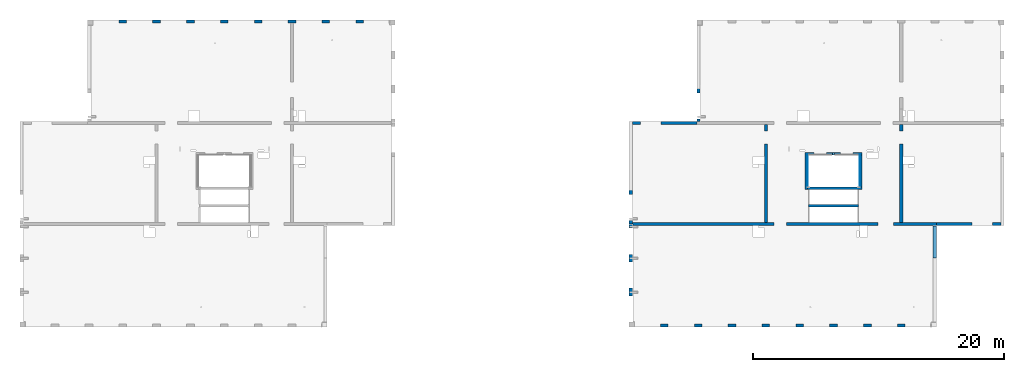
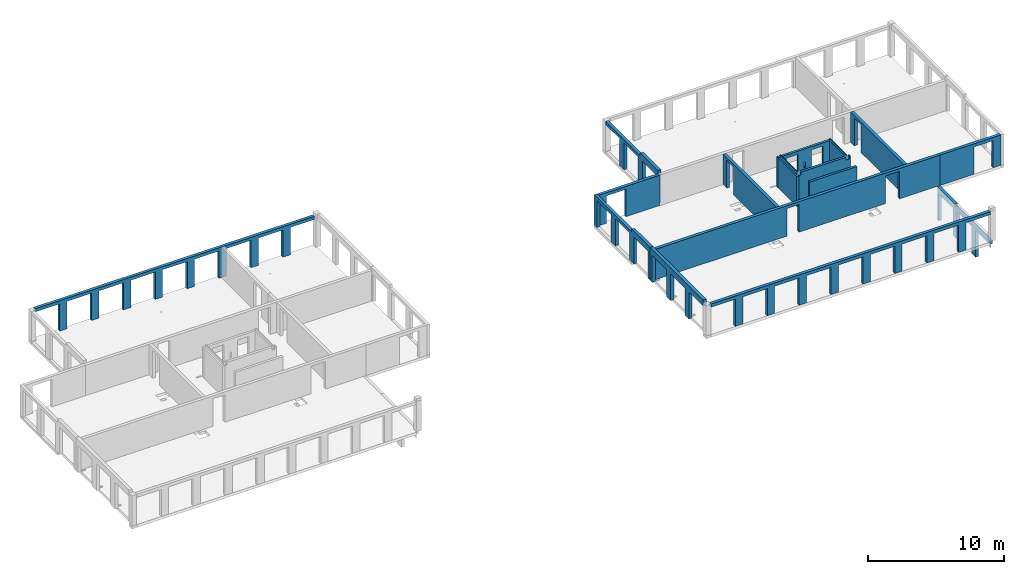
# One storey, part 5 of 12: 18 walls, 45 openings.
"""IFC2X3 building model written with IfcOpenShell, lengths in millimetres."""

import ifcopenshell
import ifcopenshell.guid

model = None  # the IFC model being written
_history = None  # IfcOwnerHistory: only IFC2X3 demands one
_inside = {}  # id of a spatial element -> (the spatial element, [elements in it])
_under = {}  # id of a project, library or spatial element -> (it, [spatial elements below it])
_declared = {}  # id of a project -> (the project, [libraries it declares])
_typed = {}  # id of a type object -> (the type object, [elements of that type])
_made_of = {}  # id of a material, layer set ... -> (it, [elements and type objects made of it])


def new_model(schema):
    """Start an empty IFC model of exactly this schema.

    Asked for "IFC4X3", IfcOpenShell would pick the latest addendum, in which some entities
    have other attributes; the version numbers below select the first issue.
    IFC2X3 requires an IfcOwnerHistory on every rooted entity: one is made here for all.
    """
    global model, _history
    if schema == "IFC4X3":
        model = ifcopenshell.file(schema_version=(4, 3, 0, 0))
    else:
        model = ifcopenshell.file(schema=schema)
    _inside.clear()
    _under.clear()
    _declared.clear()
    _typed.clear()
    _made_of.clear()
    _history = None
    if model.schema == "IFC2X3":
        org = make("IfcOrganization", Name="unknown")
        user = make(
            "IfcPersonAndOrganization",
            ThePerson=make("IfcPerson", FamilyName="unknown"),
            TheOrganization=org,
        )
        app = make(
            "IfcApplication",
            ApplicationDeveloper=org,
            Version="unknown",
            ApplicationFullName="unknown",
            ApplicationIdentifier="unknown",
        )
        _history = make(
            "IfcOwnerHistory",
            OwningUser=user,
            OwningApplication=app,
            ChangeAction="ADDED",
            CreationDate=0,
        )
    return model


def make(cls, **values):
    """One entity of the class cls with the attributes given. An attribute that is None is left unset."""
    return model.create_entity(
        cls, **{name: value for name, value in values.items() if value is not None}
    )


def entity(cls, *values):
    """Any entity or typed value of the class cls, its attributes in the order of the schema. None: left unset."""
    e = model.create_entity(cls)
    for i, value in enumerate(values):
        if value is not None:
            e[i] = value
    return e


def rooted(cls, **values):
    """An entity with a GlobalId (a new one), such as an element, a storey or a relation."""
    return make(cls, GlobalId=ifcopenshell.guid.new(), OwnerHistory=_history, **values)


def si_unit(unit_type, name, prefix=None):
    """IfcSIUnit, for example si_unit("LENGTHUNIT", "METRE", prefix="MILLI")."""
    return make("IfcSIUnit", UnitType=unit_type, Prefix=prefix, Name=name)


def converted_unit(unit_type, name, factor, base, dimensions=None, offset=None):
    """IfcConversionBasedUnit, such as the inch: factor (a typed value) times the base unit."""
    return make(
        "IfcConversionBasedUnit"
        if offset is None
        else "IfcConversionBasedUnitWithOffset",
        ConversionOffset=offset,
        Dimensions=None
        if dimensions is None
        else entity("IfcDimensionalExponents", *dimensions),
        UnitType=unit_type,
        Name=name,
        ConversionFactor=make(
            "IfcMeasureWithUnit", ValueComponent=factor, UnitComponent=base
        ),
    )


def derived_unit(unit_type, elements):
    """IfcDerivedUnit: a product of units, each with its exponent."""
    return make(
        "IfcDerivedUnit",
        Elements=[
            make("IfcDerivedUnitElement", Unit=unit, Exponent=power)
            for unit, power in elements
        ],
        UnitType=unit_type,
    )


def assignment(units):
    """IfcUnitAssignment: the units of a project."""
    return None if units is None else make("IfcUnitAssignment", Units=units)


def point(xyz):
    """IfcCartesianPoint."""
    return None if xyz is None else make("IfcCartesianPoint", Coordinates=xyz)


def direction(xyz):
    """IfcDirection."""
    return None if xyz is None else make("IfcDirection", DirectionRatios=xyz)


def frame(location, z_axis=None, x_axis=None):
    """IfcAxis2Placement3D, a coordinate frame: its origin and axes. An axis left out is left unset."""
    return make(
        "IfcAxis2Placement3D",
        Location=point(location),
        Axis=direction(z_axis),
        RefDirection=direction(x_axis),
    )


def frame_2d(location, x_axis=None):
    """IfcAxis2Placement2D, a coordinate frame in the plane: its origin and x axis."""
    return make(
        "IfcAxis2Placement2D", Location=point(location), RefDirection=direction(x_axis)
    )


def origin():
    """The frame at (0, 0, 0) with its axes left unset."""
    return frame((0.0, 0.0, 0.0))


def origin_2d_with_axis():
    """The frame at (0, 0) in the plane with the x axis (1, 0) written out."""
    return frame_2d((0.0, 0.0), x_axis=(1.0, 0.0))


def place(relative_to, where):
    """IfcLocalPlacement: puts the frame where relative to a parent placement (None: the world)."""
    return make(
        "IfcLocalPlacement", PlacementRelTo=relative_to, RelativePlacement=where
    )


def context(
    kind, dimensions, precision=None, world=None, true_north=None, identifier=None
):
    """IfcGeometricRepresentationContext, for example the 3D "Model" context."""
    return make(
        "IfcGeometricRepresentationContext",
        ContextIdentifier=identifier,
        ContextType=kind,
        CoordinateSpaceDimension=dimensions,
        Precision=precision,
        WorldCoordinateSystem=world,
        TrueNorth=true_north,
    )


def subcontext(parent, identifier, kind, view, scale=None):
    """IfcGeometricRepresentationSubContext, for example "Body" below "Model"."""
    return make(
        "IfcGeometricRepresentationSubContext",
        ContextIdentifier=identifier,
        ContextType=kind,
        ParentContext=parent,
        TargetScale=scale,
        TargetView=view,
    )


def project(units=None, contexts=None):
    """IfcProject with its units and contexts."""
    return rooted(
        "IfcProject",
        Name="project",
        RepresentationContexts=contexts,
        UnitsInContext=assignment(units),
    )


def spatial(cls, under=None, at=None, **own):
    """A site, building, storey or space (cls), placed at a placement, below another one or the project."""
    s = rooted(cls, ObjectPlacement=at, **own)
    if under is not None:
        _under.setdefault(under.id(), (under, []))[1].append(s)
    return s


def profile(cls, at=None, kind="AREA", **sizes):
    """A parametric profile (cls). Its sizes go by their IFC names, for example OverallWidth=200.0."""
    return make(cls, ProfileType=kind, Position=at, **sizes)


def rectangle(**sizes):
    """IfcRectangleProfileDef."""
    return profile("IfcRectangleProfileDef", **sizes)


def extrude(swept, where, along, depth):
    """IfcExtrudedAreaSolid: the profile swept, set in the frame where, extruded along a direction by depth."""
    return make(
        "IfcExtrudedAreaSolid",
        SweptArea=swept,
        Position=where,
        ExtrudedDirection=direction(along),
        Depth=depth,
    )


def shape(context_of_items, identifier, shape_type, items):
    """IfcShapeRepresentation: the items that make up one representation, for example the "Body"."""
    return make(
        "IfcShapeRepresentation",
        ContextOfItems=context_of_items,
        RepresentationIdentifier=identifier,
        RepresentationType=shape_type,
        Items=items,
    )


def material(Name=None, Category=None):
    """IfcMaterial."""
    return make("IfcMaterial", Name=Name, Category=Category)


def layer(
    of_material, thickness, ventilated=None, Name=None, Category=None, Priority=None
):
    """IfcMaterialLayer: one layer of a wall or slab, of a material (None: an air gap)."""
    return make(
        "IfcMaterialLayer",
        Material=of_material,
        LayerThickness=thickness,
        IsVentilated=ventilated,
        Name=Name,
        Category=Category,
        Priority=Priority,
    )


def layer_set(layers, Name=None):
    """IfcMaterialLayerSet."""
    return make("IfcMaterialLayerSet", MaterialLayers=layers, LayerSetName=Name)


def layer_usage(for_layer_set, set_direction, sense, offset, extent=None):
    """IfcMaterialLayerSetUsage: how a layer set lies in its element."""
    return make(
        "IfcMaterialLayerSetUsage",
        ForLayerSet=for_layer_set,
        LayerSetDirection=set_direction,
        DirectionSense=sense,
        OffsetFromReferenceLine=offset,
        ReferenceExtent=extent,
    )


def made_of(thing, what):
    """Note that an element or type object is made of a material, layer set ...; save() writes the relation."""
    if what is not None:
        _made_of.setdefault(what.id(), (what, []))[1].append(thing)
    return thing


def type_object(cls, material=None, **own):
    """A type object (cls), such as IfcWallType, which elements share."""
    return made_of(rooted(cls, **own), material)


def element(
    cls,
    number,
    at=None,
    inside=None,
    cuts=None,
    type_object=None,
    material=None,
    context=None,
    identifier="Body",
    shape_type=None,
    held_by="IfcProductDefinitionShape",
    body=None,
    shapes=None,
    **own,
):
    """One element of the class cls, such as IfcWall. Its Tag is "e" and its number.

    at: its placement. inside: the storey or other place that contains it. cuts: it is an
    opening in that element (IfcRelVoidsElement). A single representation is given by context,
    identifier, shape_type and body (its items); several are given by shapes. held_by: the class
    of the entity that holds the representations. save() writes the other relations.
    """
    e = rooted(cls, Tag="e%d" % number, ObjectPlacement=at, **own)
    if body is not None:
        shapes = [shape(context, identifier, shape_type, body)]
    if shapes is not None:
        e.Representation = make(held_by, Representations=shapes)
    if inside is not None:
        _inside.setdefault(inside.id(), (inside, []))[1].append(e)
    if cuts is not None:
        rooted(
            "IfcRelVoidsElement", RelatingBuildingElement=cuts, RelatedOpeningElement=e
        )
    if type_object is not None:
        _typed.setdefault(type_object.id(), (type_object, []))[1].append(e)
    return made_of(e, material)


def aggregate(whole, parts):
    """IfcRelAggregates: a whole, such as a stair, and the parts it consists of."""
    return rooted("IfcRelAggregates", RelatingObject=whole, RelatedObjects=parts)


def save(model, path):
    """Write the relations noted so far, then the file.

    IfcRelAggregates (storeys below a building ...), IfcRelContainedInSpatialStructure (elements
    in a storey), IfcRelDefinesByType, IfcRelAssociatesMaterial and IfcRelDeclares: one each for
    every whole, place, type object, material and project.
    """
    for whole, parts in _under.values():
        aggregate(whole, parts)
    for where, things in _inside.values():
        rooted(
            "IfcRelContainedInSpatialStructure",
            RelatedElements=things,
            RelatingStructure=where,
        )
    for kind, things in _typed.values():
        rooted("IfcRelDefinesByType", RelatedObjects=things, RelatingType=kind)
    for what, things in _made_of.values():
        rooted("IfcRelAssociatesMaterial", RelatedObjects=things, RelatingMaterial=what)
    for by, libraries in _declared.values():
        rooted("IfcRelDeclares", RelatingContext=by, RelatedDefinitions=libraries)
    model.write(path)


model = new_model("IFC2X3")

# Units and contexts
model_context = context("Model", 3, precision=0.01, world=origin(), true_north=direction((6.12303176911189e-17, 1.0)))
body_context = subcontext(model_context, "Body", "Model", "MODEL_VIEW")
ifc_project = project(units=[si_unit("LENGTHUNIT", "METRE", prefix="MILLI"), si_unit("AREAUNIT", "SQUARE_METRE"), si_unit("VOLUMEUNIT", "CUBIC_METRE"), converted_unit("PLANEANGLEUNIT", "DEGREE", entity("IfcRatioMeasure", 0.0174532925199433), si_unit("PLANEANGLEUNIT", "RADIAN"), dimensions=[0, 0, 0, 0, 0, 0, 0]), si_unit("MASSUNIT", "GRAM", prefix="KILO"), derived_unit("MASSDENSITYUNIT", [(si_unit("MASSUNIT", "GRAM", prefix="KILO"), 1), (si_unit("LENGTHUNIT", "METRE"), -3)]), si_unit("TIMEUNIT", "SECOND"), si_unit("FREQUENCYUNIT", "HERTZ"), si_unit("THERMODYNAMICTEMPERATUREUNIT", "DEGREE_CELSIUS"), derived_unit("THERMALTRANSMITTANCEUNIT", [(si_unit("MASSUNIT", "GRAM", prefix="KILO"), 1), (si_unit("THERMODYNAMICTEMPERATUREUNIT", "KELVIN"), -1), (si_unit("TIMEUNIT", "SECOND"), -3)]), derived_unit("VOLUMETRICFLOWRATEUNIT", [(si_unit("LENGTHUNIT", "METRE"), 3), (si_unit("TIMEUNIT", "SECOND"), -1)]), si_unit("ELECTRICCURRENTUNIT", "AMPERE"), si_unit("ELECTRICVOLTAGEUNIT", "VOLT"), si_unit("POWERUNIT", "WATT"), si_unit("FORCEUNIT", "NEWTON", prefix="KILO"), si_unit("ILLUMINANCEUNIT", "LUX"), si_unit("LUMINOUSFLUXUNIT", "LUMEN"), si_unit("LUMINOUSINTENSITYUNIT", "CANDELA"), derived_unit("USERDEFINED", [(si_unit("MASSUNIT", "GRAM", prefix="KILO"), -1), (si_unit("LENGTHUNIT", "METRE"), -2), (si_unit("TIMEUNIT", "SECOND"), 3), (si_unit("LUMINOUSFLUXUNIT", "LUMEN"), 1)]), derived_unit("LINEARVELOCITYUNIT", [(si_unit("LENGTHUNIT", "METRE"), 1), (si_unit("TIMEUNIT", "SECOND"), -1)]), si_unit("PRESSUREUNIT", "PASCAL"), derived_unit("USERDEFINED", [(si_unit("LENGTHUNIT", "METRE"), -2), (si_unit("MASSUNIT", "GRAM", prefix="KILO"), 1), (si_unit("TIMEUNIT", "SECOND"), -2)])], contexts=[model_context])

# Site, building, storey
site_placement = place(None, origin())
site = spatial("IfcSite", under=ifc_project, at=site_placement, Name="Default", CompositionType="ELEMENT")
building_placement = place(site_placement, origin())
building = spatial("IfcBuilding", under=site, at=building_placement, Name="niet gebruiken", CompositionType="ELEMENT")
storey_placement = place(building_placement, frame((0.0, 0.0, 27450.0)))
storey = spatial("IfcBuildingStorey", under=building, at=storey_placement, Name="09 negende verdieping", CompositionType="ELEMENT", Elevation=27450.0)

# Wall, openings
ifc_material_1 = material(Name="NLRS_f2_beton ihwg")
ifc_layer_1 = layer(ifc_material_1, 250.0)
ifc_layer_set_1 = layer_set([ifc_layer_1], Name="Basic Wall:NLRS_22.21_WA_beton ihwg d=250_gen")
ifc_layer_usage_1 = layer_usage(ifc_layer_set_1, "AXIS2", "NEGATIVE", 125.0)
wall_type_1 = type_object("IfcWallType", Name="Basic Wall:NLRS_22.21_WA_beton ihwg d=250_gen", PredefinedType="STANDARD", material=ifc_layer_set_1)
wall_1_placement = place(storey_placement, frame((75770.0, 36981.0, -90.0)))
wall_1 = element("IfcWallStandardCase", 1, at=wall_1_placement, inside=storey, type_object=wall_type_1, material=ifc_layer_usage_1, Name="Basic Wall:NLRS_22.21_WA_beton ihwg d=250_gen", ObjectType="Basic Wall:NLRS_22.21_WA_beton ihwg d=250_gen", context=body_context, shape_type="SweptSolid", body=[
    extrude(rectangle(XDim=24230.0, YDim=250.000000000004, at=frame_2d((12115.0, 0.0), x_axis=(-1.0, 0.0))), origin(), (0.0, 0.0, 1.0), 2719.99999999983),
])
opening_1_placement = place(wall_1_placement, origin())
element("IfcOpeningElement", 2, at=opening_1_placement, cuts=wall_1, Name="Basic Wall:NLRS_22.21_WA_beton ihwg d=250_gen", ObjectType="Opening", context=body_context, shape_type="SweptSolid", body=[
    extrude(rectangle(XDim=2470.0, YDim=1225.0, at=frame_2d((-8.69704308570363e-12, 4.43378667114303e-12), x_axis=(0.0, 1.0))), frame((20192.5000000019, -1399.0, 1235.0), z_axis=(0.0, 1.0, 0.0), x_axis=(-1.0, 0.0, 0.0)), (0.0, 0.0, 1.0), 3048.0),
])
opening_2_placement = place(wall_1_placement, origin())
element("IfcOpeningElement", 3, at=opening_2_placement, cuts=wall_1, Name="Basic Wall:NLRS_22.21_WA_beton ihwg d=250_gen", ObjectType="Opening", context=body_context, shape_type="SweptSolid", body=[
    extrude(rectangle(XDim=2470.0, YDim=1006.0, at=frame_2d((-8.66862137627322e-12, -4.43378667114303e-12), x_axis=(0.0, 1.0))), frame((11782.0, -1399.0, 1235.0), z_axis=(0.0, 1.0, 0.0), x_axis=(-1.0, 0.0, 0.0)), (0.0, 0.0, 1.0), 3048.0),
])
opening_3_placement = place(wall_1_placement, origin())
element("IfcOpeningElement", 4, at=opening_3_placement, cuts=wall_1, Name="Basic Wall:NLRS_22.21_WA_beton ihwg d=250_gen", ObjectType="Recess", context=body_context, shape_type="SweptSolid", body=[
    extrude(rectangle(XDim=55000.0, YDim=19.9999999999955, at=frame_2d((0.0, 4.33164615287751e-12), x_axis=(1.0, 0.0))), frame((10.0, -140.0, 12650.0), z_axis=(0.0, 1.0, 0.0), x_axis=(0.0, 0.0, -1.0)), (0.0, 0.0, 1.0), 124.999999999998),
])

# Wall, opening
ifc_layer_usage_2 = layer_usage(ifc_layer_set_1, "AXIS2", "NEGATIVE", 125.0)
wall_2_placement = place(storey_placement, frame((75770.0, 45031.0, -90.0)))
wall_2 = element("IfcWallStandardCase", 5, at=wall_2_placement, inside=storey, type_object=wall_type_1, material=ifc_layer_usage_2, Name="Basic Wall:NLRS_22.21_WA_beton ihwg d=250_gen", ObjectType="Basic Wall:NLRS_22.21_WA_beton ihwg d=250_gen", context=body_context, shape_type="SweptSolid", body=[
    extrude(rectangle(XDim=5130.0, YDim=249.999999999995, at=frame_2d((2565.0, 0.0), x_axis=(-1.0, 0.0))), origin(), (0.0, 0.0, 1.0), 2719.99999999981),
])
opening_4_placement = place(wall_2_placement, origin())
element("IfcOpeningElement", 6, at=opening_4_placement, cuts=wall_2, Name="Basic Wall:NLRS_22.21_WA_beton ihwg d=250_gen", ObjectType="Opening", context=body_context, shape_type="SweptSolid", body=[
    extrude(rectangle(XDim=2440.0, YDim=1640.0, at=frame_2d((0.0, 4.37694325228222e-12), x_axis=(1.0, 0.0))), frame((1460.0, -1649.0, 1220.0), z_axis=(0.0, 1.0, 0.0), x_axis=(0.0, 0.0, 1.0)), (0.0, 0.0, 1.0), 3048.0),
])

ifc_layer_usage_3 = layer_usage(ifc_layer_set_1, "AXIS2", "NEGATIVE", 125.0)
wall_3_placement = place(storey_placement, frame((86400.0, 44906.0, -90.0), z_axis=(0.0, 0.0, 1.0), x_axis=(0.0, -1.0, 0.0)))
wall_3 = element("IfcWallStandardCase", 7, at=wall_3_placement, inside=storey, type_object=wall_type_1, material=ifc_layer_usage_3, Name="Basic Wall:NLRS_22.21_WA_beton ihwg d=250_gen", ObjectType="Basic Wall:NLRS_22.21_WA_beton ihwg d=250_gen", context=body_context, shape_type="SweptSolid", body=[
    extrude(rectangle(XDim=7799.99999999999, YDim=250.000000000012, at=frame_2d((3900.0, 0.0), x_axis=(-1.0, 0.0))), origin(), (0.0, 0.0, 1.0), 2719.99999999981),
])
opening_5_placement = place(wall_3_placement, origin())
element("IfcOpeningElement", 8, at=opening_5_placement, cuts=wall_3, Name="Basic Wall:NLRS_22.21_WA_beton ihwg d=250_gen", ObjectType="Opening", context=body_context, shape_type="SweptSolid", body=[
    extrude(rectangle(XDim=2470.0, YDim=1006.0, at=frame_2d((4.43378667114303e-12, 0.0), x_axis=(1.0, 0.0))), frame((1027.0, -1649.0, 1235.0), z_axis=(0.0, 1.0, 0.0), x_axis=(0.0, 0.0, 1.0)), (0.0, 0.0, 1.0), 3048.0),
])

ifc_layer_usage_4 = layer_usage(ifc_layer_set_1, "AXIS2", "NEGATIVE", 125.0)
wall_4_placement = place(storey_placement, frame((97200.0, 44906.0, -90.0), z_axis=(0.0, 0.0, 1.0), x_axis=(0.0, -1.0, 0.0)))
wall_4 = element("IfcWallStandardCase", 9, at=wall_4_placement, inside=storey, type_object=wall_type_1, material=ifc_layer_usage_4, Name="Basic Wall:NLRS_22.21_WA_beton ihwg d=250_gen", ObjectType="Basic Wall:NLRS_22.21_WA_beton ihwg d=250_gen", context=body_context, shape_type="SweptSolid", body=[
    extrude(rectangle(XDim=7799.99999999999, YDim=250.000000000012, at=frame_2d((3900.0, 0.0), x_axis=(-1.0, 0.0))), origin(), (0.0, 0.0, 1.0), 2719.99999999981),
])
opening_6_placement = place(wall_4_placement, origin())
element("IfcOpeningElement", 10, at=opening_6_placement, cuts=wall_4, Name="Basic Wall:NLRS_22.21_WA_beton ihwg d=250_gen", ObjectType="Opening", context=body_context, shape_type="SweptSolid", body=[
    extrude(rectangle(XDim=2470.0, YDim=1006.0, at=origin_2d_with_axis()), frame((1027.0, -1649.0, 1235.0), z_axis=(0.0, 1.0, 0.0), x_axis=(0.0, 0.0, 1.0)), (0.0, 0.0, 1.0), 3048.0),
])

ifc_layer_usage_5 = layer_usage(ifc_layer_set_1, "AXIS2", "NEGATIVE", 125.0)
wall_5_placement = place(storey_placement, frame((100000.0, 36981.0, -90.0)))
wall_5 = element("IfcWallStandardCase", 11, at=wall_5_placement, inside=storey, type_object=wall_type_1, material=ifc_layer_usage_5, Name="Basic Wall:NLRS_22.21_WA_beton ihwg d=250_gen", ObjectType="Basic Wall:NLRS_22.21_WA_beton ihwg d=250_gen", context=body_context, shape_type="SweptSolid", body=[
    extrude(rectangle(XDim=5149.99999999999, YDim=250.000000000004, at=frame_2d((2575.0, 0.0), x_axis=(-1.0, 0.0))), origin(), (0.0, 0.0, 1.0), 2719.99999999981),
])
opening_7_placement = place(wall_5_placement, origin())
element("IfcOpeningElement", 12, at=opening_7_placement, cuts=wall_5, Name="Basic Wall:NLRS_22.21_WA_beton ihwg d=250_gen", ObjectType="Opening", context=body_context, shape_type="SweptSolid", body=[
    extrude(rectangle(XDim=2440.0, YDim=1639.99999999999, at=frame_2d((-8.69704308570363e-12, 2.1600499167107e-12), x_axis=(0.0, 1.0))), frame((3670.0, -1399.0, 1220.0), z_axis=(0.0, 1.0, 0.0), x_axis=(-1.0, 0.0, 0.0)), (0.0, 0.0, 1.0), 3048.0),
])

# Wall, openings
ifc_material_2 = material(Name="NLRS_f2_beton prefab")
ifc_layer_2 = layer(ifc_material_2, 250.0)
ifc_layer_set_2 = layer_set([ifc_layer_2], Name="Basic Wall:NLRS_21.21_WA_beton prefab d=250_gen")
ifc_layer_usage_6 = layer_usage(ifc_layer_set_2, "AXIS2", "NEGATIVE", 125.0)
wall_type_2 = type_object("IfcWallType", Name="Basic Wall:NLRS_21.21_WA_beton prefab d=250_gen", PredefinedType="STANDARD", material=ifc_layer_set_2)
wall_6_placement = place(storey_placement, frame((99875.0, 29166.0, -3040.0), z_axis=(0.0, 0.0, 1.0), x_axis=(0.0, 1.0, 0.0)))
wall_6 = element("IfcWallStandardCase", 13, at=wall_6_placement, inside=storey, type_object=wall_type_2, material=ifc_layer_usage_6, Name="Basic Wall:NLRS_21.21_WA_beton prefab d=250_gen", ObjectType="Basic Wall:NLRS_21.21_WA_beton prefab d=250_gen", context=body_context, shape_type="SweptSolid", body=[
    extrude(rectangle(XDim=7669.99999999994, YDim=250.000000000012, at=frame_2d((3834.99999999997, 0.0), x_axis=(-1.0, 0.0))), origin(), (0.0, 0.0, 1.0), 2949.99999999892),
])
opening_8_placement = place(wall_6_placement, origin())
element("IfcOpeningElement", 14, at=opening_8_placement, cuts=wall_6, Name="Basic Wall:NLRS_21.21_WA_beton prefab d=250_gen", ObjectType="Opening", context=body_context, shape_type="SweptSolid", body=[
    extrude(rectangle(XDim=2420.0, YDim=2080.0, at=frame_2d((-2.1600499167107e-12, 2.1600499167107e-12), x_axis=(0.0, 1.0))), frame((1040.0, -1399.0, 1210.0), z_axis=(0.0, 1.0, 0.0), x_axis=(-1.0, 0.0, 0.0)), (0.0, 0.0, 1.0), 3048.0),
])
opening_9_placement = place(wall_6_placement, origin())
element("IfcOpeningElement", 15, at=opening_9_placement, cuts=wall_6, Name="Basic Wall:NLRS_21.21_WA_beton prefab d=250_gen", ObjectType="Opening", context=body_context, shape_type="SweptSolid", body=[
    extrude(rectangle(XDim=2420.0, YDim=2080.0, at=frame_2d((2.1600499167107e-12, -2.1600499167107e-12), x_axis=(0.0, 1.0))), frame((3740.0, -1399.0, 1210.0), z_axis=(0.0, 1.0, 0.0), x_axis=(-1.0, 0.0, 0.0)), (0.0, 0.0, 1.0), 3048.0),
])
opening_10_placement = place(wall_6_placement, origin())
element("IfcOpeningElement", 16, at=opening_10_placement, cuts=wall_6, Name="Basic Wall:NLRS_21.21_WA_beton prefab d=250_gen", ObjectType="Opening", context=body_context, shape_type="SweptSolid", body=[
    extrude(rectangle(XDim=2420.0, YDim=2080.0, at=frame_2d((2.1600499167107e-12, -2.1600499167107e-12), x_axis=(0.0, 1.0))), frame((6440.0, -1399.0, 1210.0), z_axis=(0.0, 1.0, 0.0), x_axis=(-1.0, 0.0, 0.0)), (0.0, 0.0, 1.0), 3048.0),
])
opening_11_placement = place(wall_6_placement, origin())
element("IfcOpeningElement", 17, at=opening_11_placement, cuts=wall_6, Name="Basic Wall:NLRS_21.21_WA_beton prefab d=250_gen", ObjectType="Opening", context=body_context, shape_type="SweptSolid", body=[
    extrude(rectangle(XDim=249.999999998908, YDim=5090.00000000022, at=frame_2d((0.0, -2.16715534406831e-12), x_axis=(0.0, 1.0))), frame((2545.0, 125.0, 2825.0), z_axis=(0.0, -1.0, 0.0), x_axis=(-1.0, 0.0, 0.0)), (0.0, 0.0, 1.0), 250.0),
])

ifc_layer_usage_7 = layer_usage(ifc_layer_set_2, "AXIS2", "NEGATIVE", 125.0)
wall_7_placement = place(storey_placement, frame((75625.0, 45156.0, -70.0), z_axis=(0.0, 0.0, 1.0), x_axis=(0.0, -1.0, 0.0)))
wall_7 = element("IfcWallStandardCase", 18, at=wall_7_placement, inside=storey, type_object=wall_type_2, material=ifc_layer_usage_7, Name="Basic Wall:NLRS_21.21_WA_beton prefab d=250_gen", ObjectType="Basic Wall:NLRS_21.21_WA_beton prefab d=250_gen", context=body_context, shape_type="SweptSolid", body=[
    extrude(rectangle(XDim=8189.99999999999, YDim=249.999999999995, at=frame_2d((4095.0, 0.0), x_axis=(-1.0, 0.0))), origin(), (0.0, 0.0, 1.0), 2949.99999999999),
])
opening_12_placement = place(wall_7_placement, origin())
element("IfcOpeningElement", 19, at=opening_12_placement, cuts=wall_7, Name="Basic Wall:NLRS_21.21_WA_beton prefab d=250_gen", ObjectType="Opening", context=body_context, shape_type="SweptSolid", body=[
    extrude(rectangle(XDim=2420.0, YDim=2080.0, at=frame_2d((0.0, 2.1600499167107e-12), x_axis=(0.0, 1.0))), frame((1450.0, -1399.0, 1210.0), z_axis=(0.0, 1.0, 0.0), x_axis=(-1.0, 0.0, 0.0)), (0.0, 0.0, 1.0), 3048.0),
])
opening_13_placement = place(wall_7_placement, origin())
element("IfcOpeningElement", 20, at=opening_13_placement, cuts=wall_7, Name="Basic Wall:NLRS_21.21_WA_beton prefab d=250_gen", ObjectType="Opening", context=body_context, shape_type="SweptSolid", body=[
    extrude(rectangle(XDim=2420.0, YDim=2080.0, at=frame_2d((0.0, -2.1600499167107e-12), x_axis=(0.0, 1.0))), frame((4150.0, -1399.0, 1210.0), z_axis=(0.0, 1.0, 0.0), x_axis=(-1.0, 0.0, 0.0)), (0.0, 0.0, 1.0), 3048.0),
])
opening_14_placement = place(wall_7_placement, origin())
element("IfcOpeningElement", 21, at=opening_14_placement, cuts=wall_7, Name="Basic Wall:NLRS_21.21_WA_beton prefab d=250_gen", ObjectType="Opening", context=body_context, shape_type="SweptSolid", body=[
    extrude(rectangle(XDim=2420.0, YDim=2080.0, at=frame_2d((0.0, 2.1600499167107e-12), x_axis=(0.0, 1.0))), frame((6850.0, -1399.0, 1210.0), z_axis=(0.0, 1.0, 0.0), x_axis=(-1.0, 0.0, 0.0)), (0.0, 0.0, 1.0), 3048.0),
])
opening_15_placement = place(wall_7_placement, origin())
element("IfcOpeningElement", 22, at=opening_15_placement, cuts=wall_7, Name="Basic Wall:NLRS_21.21_WA_beton prefab d=250_gen", ObjectType="Opening", context=body_context, shape_type="SweptSolid", body=[
    extrude(rectangle(XDim=250.000000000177, YDim=5499.99999999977, at=frame_2d((0.0, -4.33431068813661e-12), x_axis=(0.0, 1.0))), frame((2750.0, 125.0, 2825.0), z_axis=(0.0, -1.0, 0.0), x_axis=(-1.0, 0.0, 0.0)), (0.0, 0.0, 1.0), 250.0),
])

ifc_layer_usage_8 = layer_usage(ifc_layer_set_2, "AXIS2", "NEGATIVE", 125.0)
wall_8_placement = place(storey_placement, frame((81025.0, 52846.0, -70.0), z_axis=(0.0, 0.0, 1.0), x_axis=(0.0, -1.0, 0.0)))
wall_8 = element("IfcWallStandardCase", 23, at=wall_8_placement, inside=storey, type_object=wall_type_2, material=ifc_layer_usage_8, Name="Basic Wall:NLRS_21.21_WA_beton prefab d=250_gen", ObjectType="Basic Wall:NLRS_21.21_WA_beton prefab d=250_gen", context=body_context, shape_type="SweptSolid", body=[
    extrude(rectangle(XDim=7670.00000000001, YDim=250.000000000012, at=frame_2d((3835.0, 0.0), x_axis=(-1.0, 0.0))), origin(), (0.0, 0.0, 1.0), 2949.99999999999),
])
opening_16_placement = place(wall_8_placement, origin())
element("IfcOpeningElement", 24, at=opening_16_placement, cuts=wall_8, Name="Basic Wall:NLRS_21.21_WA_beton prefab d=250_gen", ObjectType="Opening", context=body_context, shape_type="SweptSolid", body=[
    extrude(rectangle(XDim=2420.0, YDim=2080.0, at=frame_2d((0.0, 2.1600499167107e-12), x_axis=(0.0, 1.0))), frame((1040.0, -1399.0, 1210.0), z_axis=(0.0, 1.0, 0.0), x_axis=(-1.0, 0.0, 0.0)), (0.0, 0.0, 1.0), 3048.0),
])
opening_17_placement = place(wall_8_placement, origin())
element("IfcOpeningElement", 25, at=opening_17_placement, cuts=wall_8, Name="Basic Wall:NLRS_21.21_WA_beton prefab d=250_gen", ObjectType="Opening", context=body_context, shape_type="SweptSolid", body=[
    extrude(rectangle(XDim=2420.0, YDim=2080.0, at=frame_2d((0.0, -2.1600499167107e-12), x_axis=(0.0, 1.0))), frame((3740.0, -1399.0, 1210.0), z_axis=(0.0, 1.0, 0.0), x_axis=(-1.0, 0.0, 0.0)), (0.0, 0.0, 1.0), 3048.0),
])
opening_18_placement = place(wall_8_placement, origin())
element("IfcOpeningElement", 26, at=opening_18_placement, cuts=wall_8, Name="Basic Wall:NLRS_21.21_WA_beton prefab d=250_gen", ObjectType="Opening", context=body_context, shape_type="SweptSolid", body=[
    extrude(rectangle(XDim=2420.0, YDim=2080.0, at=frame_2d((0.0, 2.1600499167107e-12), x_axis=(0.0, 1.0))), frame((6440.0, -1399.0, 1210.0), z_axis=(0.0, 1.0, 0.0), x_axis=(-1.0, 0.0, 0.0)), (0.0, 0.0, 1.0), 3048.0),
])
opening_19_placement = place(wall_8_placement, origin())
element("IfcOpeningElement", 27, at=opening_19_placement, cuts=wall_8, Name="Basic Wall:NLRS_21.21_WA_beton prefab d=250_gen", ObjectType="Opening", context=body_context, shape_type="SweptSolid", body=[
    extrude(rectangle(XDim=250.000000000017, YDim=5089.99999999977, at=frame_2d((4.32009983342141e-12, -2.16715534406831e-12), x_axis=(0.0, 1.0))), frame((2545.0, 125.0, 2825.0), z_axis=(0.0, -1.0, 0.0), x_axis=(-1.0, 0.0, 0.0)), (0.0, 0.0, 1.0), 250.0),
])

# Wall
ifc_layer_3 = layer(ifc_material_2, 200.0)
ifc_layer_set_3 = layer_set([ifc_layer_3], Name="Basic Wall:NLRS_21.21_WA_beton prefab d=200_gen")
ifc_layer_usage_9 = layer_usage(ifc_layer_set_3, "AXIS2", "NEGATIVE", 100.0)
wall_type_3 = type_object("IfcWallType", Name="Basic Wall:NLRS_21.21_WA_beton prefab d=200_gen", PredefinedType="STANDARD", material=ifc_layer_set_3)
wall_9_placement = place(storey_placement, frame((89800.0, 38426.0, -70.0)))
element("IfcWallStandardCase", 28, at=wall_9_placement, inside=storey, type_object=wall_type_3, material=ifc_layer_usage_9, Name="Basic Wall:NLRS_21.21_WA_beton prefab d=200_gen", ObjectType="Basic Wall:NLRS_21.21_WA_beton prefab d=200_gen", context=body_context, shape_type="SweptSolid", body=[
    extrude(rectangle(XDim=3999.99999999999, YDim=199.999999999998, at=frame_2d((2000.0, 0.0), x_axis=(-1.0, 0.0))), origin(), (0.0, 0.0, 1.0), 2950.00000000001),
])

# Wall, openings
ifc_layer_4 = layer(ifc_material_2, 200.0)
ifc_layer_set_4 = layer_set([ifc_layer_4], Name="Basic Wall:NLRS_22.21_WA_beton prefab d=200_gen")
ifc_layer_usage_10 = layer_usage(ifc_layer_set_4, "AXIS2", "NEGATIVE", 100.0)
wall_type_4 = type_object("IfcWallType", Name="Basic Wall:NLRS_22.21_WA_beton prefab d=200_gen", PredefinedType="STANDARD", material=ifc_layer_set_4)
wall_10_placement = place(storey_placement, frame((89525.0, 42596.0, -70.0)))
wall_10 = element("IfcWallStandardCase", 29, at=wall_10_placement, inside=storey, type_object=wall_type_4, material=ifc_layer_usage_10, Name="Basic Wall:NLRS_22.21_WA_beton prefab d=200_gen", ObjectType="Basic Wall:NLRS_22.21_WA_beton prefab d=200_gen", context=body_context, shape_type="SweptSolid", body=[
    extrude(rectangle(XDim=4550.00000000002, YDim=200.000000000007, at=frame_2d((2275.00000000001, 7.8159700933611e-13), x_axis=(-1.0, 0.0))), origin(), (0.0, 0.0, 1.0), 2700.00000000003),
])
opening_20_placement = place(wall_10_placement, origin())
element("IfcOpeningElement", 30, at=opening_20_placement, cuts=wall_10, Name="Basic Wall:NLRS_22.21_WA_beton prefab d=200_gen", ObjectType="Opening", context=body_context, shape_type="SweptSolid", body=[
    extrude(rectangle(XDim=2430.0, YDim=980.000000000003, at=frame_2d((0.0, -8.66862137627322e-12), x_axis=(1.0, 0.0))), frame((1219.99984910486, -1624.0, 1195.0), z_axis=(0.0, 1.0, 0.0), x_axis=(0.0, 0.0, 1.0)), (0.0, 0.0, 1.0), 3048.0),
])
opening_21_placement = place(wall_10_placement, origin())
element("IfcOpeningElement", 31, at=opening_21_placement, cuts=wall_10, Name="Basic Wall:NLRS_22.21_WA_beton prefab d=200_gen", ObjectType="Opening", context=body_context, shape_type="SweptSolid", body=[
    extrude(rectangle(XDim=2430.0, YDim=980.000000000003, at=frame_2d((0.0, 8.66862137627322e-12), x_axis=(1.0, 0.0))), frame((3329.99984910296, -1624.0, 1195.0), z_axis=(0.0, 1.0, 0.0), x_axis=(0.0, 0.0, 1.0)), (0.0, 0.0, 1.0), 3048.0),
])
opening_22_placement = place(wall_10_placement, origin())
element("IfcOpeningElement", 32, at=opening_22_placement, cuts=wall_10, Name="Basic Wall:NLRS_22.21_WA_beton prefab d=200_gen", ObjectType="Opening", context=body_context, shape_type="SweptSolid", body=[
    extrude(rectangle(XDim=504.999999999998, YDim=135.000000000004, at=frame_2d((-2.1600499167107e-12, -8.66151594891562e-12), x_axis=(1.0, 0.0))), frame((2275.0, -1624.0, 1272.5), z_axis=(0.0, 1.0, 0.0), x_axis=(0.0, 0.0, 1.0)), (0.0, 0.0, 1.0), 3048.0),
])

# Wall
ifc_layer_usage_11 = layer_usage(ifc_layer_set_4, "AXIS2", "NEGATIVE", 100.0)
wall_11_placement = place(storey_placement, frame((89625.0, 42496.0, -70.0), z_axis=(0.0, 0.0, 1.0), x_axis=(0.0, -1.0, 0.0)))
element("IfcWallStandardCase", 33, at=wall_11_placement, inside=storey, type_object=wall_type_4, material=ifc_layer_usage_11, Name="Basic Wall:NLRS_22.21_WA_beton prefab d=200_gen", ObjectType="Basic Wall:NLRS_22.21_WA_beton prefab d=200_gen", context=body_context, shape_type="SweptSolid", body=[
    extrude(rectangle(XDim=2749.99999999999, YDim=199.999999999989, at=frame_2d((1375.0, 0.0), x_axis=(-1.0, 0.0))), origin(), (0.0, 0.0, 1.0), 2700.00000000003),
])

# Wall, openings
ifc_layer_usage_12 = layer_usage(ifc_layer_set_4, "AXIS2", "NEGATIVE", 100.0)
wall_12_placement = place(storey_placement, frame((94075.0, 39846.0, -70.0), z_axis=(0.0, 0.0, 1.0), x_axis=(-1.0, 0.0, 0.0)))
wall_12 = element("IfcWallStandardCase", 34, at=wall_12_placement, inside=storey, type_object=wall_type_4, material=ifc_layer_usage_12, Name="Basic Wall:NLRS_22.21_WA_beton prefab d=200_gen", ObjectType="Basic Wall:NLRS_22.21_WA_beton prefab d=200_gen", context=body_context, shape_type="SweptSolid", body=[
    extrude(rectangle(XDim=4350.00000000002, YDim=200.000000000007, at=frame_2d((2175.00000000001, 0.0), x_axis=(-1.0, 0.0))), origin(), (0.0, 0.0, 1.0), 2949.99999999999),
])
opening_23_placement = place(wall_12_placement, origin())
element("IfcOpeningElement", 35, at=opening_23_placement, cuts=wall_12, Name="Basic Wall:NLRS_22.21_WA_beton prefab d=200_gen", ObjectType="Opening", context=body_context, shape_type="SweptSolid", body=[
    extrude(rectangle(XDim=249.999999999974, YDim=274.999967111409, at=frame_2d((-2.16715534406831e-12, -8.65441052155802e-12), x_axis=(1.0, 0.0))), frame((4312.50001644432, 100.0, 2825.0), z_axis=(0.0, -1.0, 0.0), x_axis=(0.0, 0.0, 1.0)), (0.0, 0.0, 1.0), 200.0),
])
opening_24_placement = place(wall_12_placement, origin())
element("IfcOpeningElement", 36, at=opening_24_placement, cuts=wall_12, Name="Basic Wall:NLRS_22.21_WA_beton prefab d=200_gen", ObjectType="Opening", context=body_context, shape_type="SweptSolid", body=[
    extrude(rectangle(XDim=249.999999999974, YDim=275.000032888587, at=frame_2d((0.0, 2.16715534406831e-12), x_axis=(0.0, 1.0))), frame((237.500016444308, 100.0, 2825.0), z_axis=(0.0, -1.0, 0.0), x_axis=(-1.0, 0.0, 0.0)), (0.0, 0.0, 1.0), 200.0),
])

# Wall
ifc_layer_usage_13 = layer_usage(ifc_layer_set_4, "AXIS2", "NEGATIVE", 100.0)
wall_13_placement = place(storey_placement, frame((93975.0, 39946.0, -70.0), z_axis=(0.0, 0.0, 1.0), x_axis=(0.0, 1.0, 0.0)))
element("IfcWallStandardCase", 37, at=wall_13_placement, inside=storey, type_object=wall_type_4, material=ifc_layer_usage_13, Name="Basic Wall:NLRS_22.21_WA_beton prefab d=200_gen", ObjectType="Basic Wall:NLRS_22.21_WA_beton prefab d=200_gen", context=body_context, shape_type="SweptSolid", body=[
    extrude(rectangle(XDim=2549.99999999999, YDim=199.999999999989, at=frame_2d((1275.0, 0.0), x_axis=(-1.0, 0.0))), origin(), (0.0, 0.0, 1.0), 2700.00000000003),
])

# Wall, openings
ifc_layer_5 = layer(ifc_material_1, 250.0)
ifc_layer_set_5 = layer_set([ifc_layer_5], Name="Basic Wall:NLRS_21.21_WA_beton ihwg d=250_gen")
ifc_layer_usage_14 = layer_usage(ifc_layer_set_5, "AXIS2", "NEGATIVE", 125.0)
wall_type_5 = type_object("IfcWallType", Name="Basic Wall:NLRS_21.21_WA_beton ihwg d=250_gen", PredefinedType="STANDARD", material=ifc_layer_set_5)
wall_14_placement = place(storey_placement, frame((75930.0, 28881.0, -90.0)))
wall_14 = element("IfcWallStandardCase", 38, at=wall_14_placement, inside=storey, type_object=wall_type_5, material=ifc_layer_usage_14, Name="Basic Wall:NLRS_21.21_WA_beton ihwg d=250_gen", ObjectType="Basic Wall:NLRS_21.21_WA_beton ihwg d=250_gen", context=body_context, shape_type="SweptSolid", body=[
    extrude(rectangle(XDim=23640.0000000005, YDim=250.000000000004, at=frame_2d((11820.0000000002, -8.66862137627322e-13), x_axis=(-1.0, 0.0))), origin(), (0.0, 0.0, 1.0), 2720.00000000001),
])
opening_25_placement = place(wall_14_placement, origin())
element("IfcOpeningElement", 39, at=opening_25_placement, cuts=wall_14, Name="Basic Wall:NLRS_21.21_WA_beton ihwg d=250_gen", ObjectType="Opening", context=body_context, shape_type="SweptSolid", body=[
    extrude(rectangle(XDim=2440.0, YDim=2080.0, at=frame_2d((8.64019966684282e-12, -2.1600499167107e-12), x_axis=(0.0, 1.0))), frame((22620.0, -1399.0, 1220.0), z_axis=(0.0, 1.0, 0.0), x_axis=(-1.0, 0.0, 0.0)), (0.0, 0.0, 1.0), 3048.0),
])
opening_26_placement = place(wall_14_placement, origin())
element("IfcOpeningElement", 40, at=opening_26_placement, cuts=wall_14, Name="Basic Wall:NLRS_21.21_WA_beton ihwg d=250_gen", ObjectType="Opening", context=body_context, shape_type="SweptSolid", body=[
    extrude(rectangle(XDim=2440.0, YDim=2080.0, at=frame_2d((8.64019966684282e-12, 0.0), x_axis=(0.0, 1.0))), frame((19920.0, -1399.0, 1220.0), z_axis=(0.0, 1.0, 0.0), x_axis=(-1.0, 0.0, 0.0)), (0.0, 0.0, 1.0), 3048.0),
])
opening_27_placement = place(wall_14_placement, origin())
element("IfcOpeningElement", 41, at=opening_27_placement, cuts=wall_14, Name="Basic Wall:NLRS_21.21_WA_beton ihwg d=250_gen", ObjectType="Opening", context=body_context, shape_type="SweptSolid", body=[
    extrude(rectangle(XDim=2440.0, YDim=2080.0, at=frame_2d((8.64019966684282e-12, 2.1600499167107e-12), x_axis=(0.0, 1.0))), frame((17220.0, -1399.0, 1220.0), z_axis=(0.0, 1.0, 0.0), x_axis=(-1.0, 0.0, 0.0)), (0.0, 0.0, 1.0), 3048.0),
])
opening_28_placement = place(wall_14_placement, origin())
element("IfcOpeningElement", 42, at=opening_28_placement, cuts=wall_14, Name="Basic Wall:NLRS_21.21_WA_beton ihwg d=250_gen", ObjectType="Opening", context=body_context, shape_type="SweptSolid", body=[
    extrude(rectangle(XDim=2440.0, YDim=2080.0, at=frame_2d((-8.64019966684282e-12, 0.0), x_axis=(0.0, 1.0))), frame((14520.0, -1399.0, 1220.0), z_axis=(0.0, 1.0, 0.0), x_axis=(-1.0, 0.0, 0.0)), (0.0, 0.0, 1.0), 3048.0),
])
opening_29_placement = place(wall_14_placement, origin())
element("IfcOpeningElement", 43, at=opening_29_placement, cuts=wall_14, Name="Basic Wall:NLRS_21.21_WA_beton ihwg d=250_gen", ObjectType="Opening", context=body_context, shape_type="SweptSolid", body=[
    extrude(rectangle(XDim=2440.0, YDim=2080.0, at=frame_2d((8.64019966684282e-12, -2.1600499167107e-12), x_axis=(0.0, 1.0))), frame((11820.0, -1399.0, 1220.0), z_axis=(0.0, 1.0, 0.0), x_axis=(-1.0, 0.0, 0.0)), (0.0, 0.0, 1.0), 3048.0),
])
opening_30_placement = place(wall_14_placement, origin())
element("IfcOpeningElement", 44, at=opening_30_placement, cuts=wall_14, Name="Basic Wall:NLRS_21.21_WA_beton ihwg d=250_gen", ObjectType="Opening", context=body_context, shape_type="SweptSolid", body=[
    extrude(rectangle(XDim=2440.0, YDim=2080.0, at=frame_2d((8.64019966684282e-12, 0.0), x_axis=(0.0, 1.0))), frame((9120.0, -1399.0, 1220.0), z_axis=(0.0, 1.0, 0.0), x_axis=(-1.0, 0.0, 0.0)), (0.0, 0.0, 1.0), 3048.0),
])
opening_31_placement = place(wall_14_placement, origin())
element("IfcOpeningElement", 45, at=opening_31_placement, cuts=wall_14, Name="Basic Wall:NLRS_21.21_WA_beton ihwg d=250_gen", ObjectType="Opening", context=body_context, shape_type="SweptSolid", body=[
    extrude(rectangle(XDim=2440.0, YDim=2080.0, at=frame_2d((-8.64019966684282e-12, -2.1600499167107e-12), x_axis=(0.0, 1.0))), frame((6420.0, -1399.0, 1220.0), z_axis=(0.0, 1.0, 0.0), x_axis=(-1.0, 0.0, 0.0)), (0.0, 0.0, 1.0), 3048.0),
])
opening_32_placement = place(wall_14_placement, origin())
element("IfcOpeningElement", 46, at=opening_32_placement, cuts=wall_14, Name="Basic Wall:NLRS_21.21_WA_beton ihwg d=250_gen", ObjectType="Opening", context=body_context, shape_type="SweptSolid", body=[
    extrude(rectangle(XDim=2440.0, YDim=2080.0, at=frame_2d((-8.64019966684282e-12, 0.0), x_axis=(0.0, 1.0))), frame((3720.0, -1399.0, 1220.0), z_axis=(0.0, 1.0, 0.0), x_axis=(-1.0, 0.0, 0.0)), (0.0, 0.0, 1.0), 3048.0),
])
opening_33_placement = place(wall_14_placement, origin())
element("IfcOpeningElement", 47, at=opening_33_placement, cuts=wall_14, Name="Basic Wall:NLRS_21.21_WA_beton ihwg d=250_gen", ObjectType="Opening", context=body_context, shape_type="SweptSolid", body=[
    extrude(rectangle(XDim=2440.0, YDim=2080.0, at=frame_2d((0.0, -2.1600499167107e-12), x_axis=(0.0, 1.0))), frame((1020.0, -1399.0, 1220.0), z_axis=(0.0, 1.0, 0.0), x_axis=(-1.0, 0.0, 0.0)), (0.0, 0.0, 1.0), 3048.0),
])

ifc_layer_usage_15 = layer_usage(ifc_layer_set_5, "AXIS2", "NEGATIVE", 125.0)
wall_15_placement = place(storey_placement, frame((56370.0, 53131.0, -90.0), z_axis=(0.0, 0.0, 1.0), x_axis=(-1.0, 0.0, 0.0)))
wall_15 = element("IfcWallStandardCase", 48, at=wall_15_placement, inside=storey, type_object=wall_type_5, material=ifc_layer_usage_15, Name="Basic Wall:NLRS_21.21_WA_beton ihwg d=250_gen", ObjectType="Basic Wall:NLRS_21.21_WA_beton ihwg d=250_gen", context=body_context, shape_type="SweptSolid", body=[
    extrude(rectangle(XDim=23640.0000000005, YDim=249.999999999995, at=frame_2d((11820.0000000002, 5.82645043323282e-13), x_axis=(-1.0, 0.0))), origin(), (0.0, 0.0, 1.0), 2720.0),
])
opening_34_placement = place(wall_15_placement, origin())
element("IfcOpeningElement", 49, at=opening_34_placement, cuts=wall_15, Name="Basic Wall:NLRS_21.21_WA_beton ihwg d=250_gen", ObjectType="Opening", context=body_context, shape_type="SweptSolid", body=[
    extrude(rectangle(XDim=2440.0, YDim=2080.0, at=frame_2d((-2.1600499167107e-12, -2.1600499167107e-12), x_axis=(0.0, 1.0))), frame((22620.0, -1399.0, 1220.0), z_axis=(0.0, 1.0, 0.0), x_axis=(-1.0, 0.0, 0.0)), (0.0, 0.0, 1.0), 3048.0),
])
opening_35_placement = place(wall_15_placement, origin())
element("IfcOpeningElement", 50, at=opening_35_placement, cuts=wall_15, Name="Basic Wall:NLRS_21.21_WA_beton ihwg d=250_gen", ObjectType="Opening", context=body_context, shape_type="SweptSolid", body=[
    extrude(rectangle(XDim=2440.0, YDim=2080.0, at=frame_2d((2.1600499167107e-12, 0.0), x_axis=(0.0, 1.0))), frame((19920.0, -1399.0, 1220.0), z_axis=(0.0, 1.0, 0.0), x_axis=(-1.0, 0.0, 0.0)), (0.0, 0.0, 1.0), 3048.0),
])
opening_36_placement = place(wall_15_placement, origin())
element("IfcOpeningElement", 51, at=opening_36_placement, cuts=wall_15, Name="Basic Wall:NLRS_21.21_WA_beton ihwg d=250_gen", ObjectType="Opening", context=body_context, shape_type="SweptSolid", body=[
    extrude(rectangle(XDim=2440.0, YDim=2079.99999999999, at=frame_2d((2.1600499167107e-12, -2.1600499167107e-12), x_axis=(0.0, 1.0))), frame((17220.0, -1399.0, 1220.0), z_axis=(0.0, 1.0, 0.0), x_axis=(-1.0, 0.0, 0.0)), (0.0, 0.0, 1.0), 3048.0),
])
opening_37_placement = place(wall_15_placement, origin())
element("IfcOpeningElement", 52, at=opening_37_placement, cuts=wall_15, Name="Basic Wall:NLRS_21.21_WA_beton ihwg d=250_gen", ObjectType="Opening", context=body_context, shape_type="SweptSolid", body=[
    extrude(rectangle(XDim=2440.0, YDim=2080.0, at=frame_2d((0.0, 0.0), x_axis=(0.0, 1.0))), frame((14520.0, -1399.0, 1220.0), z_axis=(0.0, 1.0, 0.0), x_axis=(-1.0, 0.0, 0.0)), (0.0, 0.0, 1.0), 3048.0),
])
opening_38_placement = place(wall_15_placement, origin())
element("IfcOpeningElement", 53, at=opening_38_placement, cuts=wall_15, Name="Basic Wall:NLRS_21.21_WA_beton ihwg d=250_gen", ObjectType="Opening", context=body_context, shape_type="SweptSolid", body=[
    extrude(rectangle(XDim=2440.0, YDim=2080.0, at=frame_2d((0.0, -2.1600499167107e-12), x_axis=(0.0, 1.0))), frame((11820.0, -1399.0, 1220.0), z_axis=(0.0, 1.0, 0.0), x_axis=(-1.0, 0.0, 0.0)), (0.0, 0.0, 1.0), 3048.0),
])
opening_39_placement = place(wall_15_placement, origin())
element("IfcOpeningElement", 54, at=opening_39_placement, cuts=wall_15, Name="Basic Wall:NLRS_21.21_WA_beton ihwg d=250_gen", ObjectType="Opening", context=body_context, shape_type="SweptSolid", body=[
    extrude(rectangle(XDim=2440.0, YDim=2080.0, at=frame_2d((0.0, 0.0), x_axis=(0.0, 1.0))), frame((9120.0, -1399.0, 1220.0), z_axis=(0.0, 1.0, 0.0), x_axis=(-1.0, 0.0, 0.0)), (0.0, 0.0, 1.0), 3048.0),
])
opening_40_placement = place(wall_15_placement, origin())
element("IfcOpeningElement", 55, at=opening_40_placement, cuts=wall_15, Name="Basic Wall:NLRS_21.21_WA_beton ihwg d=250_gen", ObjectType="Opening", context=body_context, shape_type="SweptSolid", body=[
    extrude(rectangle(XDim=2440.0, YDim=2080.0, at=frame_2d((0.0, 2.1600499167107e-12), x_axis=(0.0, 1.0))), frame((6420.0, -1399.0, 1220.0), z_axis=(0.0, 1.0, 0.0), x_axis=(-1.0, 0.0, 0.0)), (0.0, 0.0, 1.0), 3048.0),
])
opening_41_placement = place(wall_15_placement, origin())
element("IfcOpeningElement", 56, at=opening_41_placement, cuts=wall_15, Name="Basic Wall:NLRS_21.21_WA_beton ihwg d=250_gen", ObjectType="Opening", context=body_context, shape_type="SweptSolid", body=[
    extrude(rectangle(XDim=2440.0, YDim=2080.0, at=frame_2d((0.0, 0.0), x_axis=(0.0, 1.0))), frame((3720.0, -1399.0, 1220.0), z_axis=(0.0, 1.0, 0.0), x_axis=(-1.0, 0.0, 0.0)), (0.0, 0.0, 1.0), 3048.0),
])
opening_42_placement = place(wall_15_placement, origin())
element("IfcOpeningElement", 57, at=opening_42_placement, cuts=wall_15, Name="Basic Wall:NLRS_21.21_WA_beton ihwg d=250_gen", ObjectType="Opening", context=body_context, shape_type="SweptSolid", body=[
    extrude(rectangle(XDim=2440.0, YDim=2080.0, at=frame_2d((8.64019966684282e-12, -2.1600499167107e-12), x_axis=(0.0, 1.0))), frame((1020.0, -1399.0, 1220.0), z_axis=(0.0, 1.0, 0.0), x_axis=(-1.0, 0.0, 0.0)), (0.0, 0.0, 1.0), 3048.0),
])

ifc_layer_6 = layer(ifc_material_2, 270.0)
ifc_layer_set_6 = layer_set([ifc_layer_6], Name="Basic Wall:NLRS_21.21_WA_beton prefab d=270_gen")
ifc_layer_usage_16 = layer_usage(ifc_layer_set_6, "AXIS2", "NEGATIVE", 135.0)
wall_type_6 = type_object("IfcWallType", Name="Basic Wall:NLRS_21.21_WA_beton prefab d=270_gen", PredefinedType="STANDARD", material=ifc_layer_set_6)
wall_16_placement = place(storey_placement, frame((75635.0, 36946.0, -70.0), z_axis=(0.0, 0.0, 1.0), x_axis=(0.0, -1.0, 0.0)))
wall_16 = element("IfcWallStandardCase", 58, at=wall_16_placement, inside=storey, type_object=wall_type_6, material=ifc_layer_usage_16, Name="Basic Wall:NLRS_21.21_WA_beton prefab d=270_gen", ObjectType="Basic Wall:NLRS_21.21_WA_beton prefab d=270_gen", context=body_context, shape_type="SweptSolid", body=[
    extrude(rectangle(XDim=7779.99999999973, YDim=270.000000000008, at=frame_2d((3889.99999999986, 0.0), x_axis=(-1.0, 0.0))), origin(), (0.0, 0.0, 1.0), 2949.99999999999),
])
opening_43_placement = place(wall_16_placement, origin())
element("IfcOpeningElement", 59, at=opening_43_placement, cuts=wall_16, Name="Basic Wall:NLRS_21.21_WA_beton prefab d=270_gen", ObjectType="Opening", context=body_context, shape_type="SweptSolid", body=[
    extrude(rectangle(XDim=2420.0, YDim=2080.0, at=frame_2d((-2.1600499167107e-12, 2.1600499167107e-12), x_axis=(0.0, 1.0))), frame((1340.0, -1389.0, 1210.0), z_axis=(0.0, 1.0, 0.0), x_axis=(-1.0, 0.0, 0.0)), (0.0, 0.0, 1.0), 3048.0),
])
opening_44_placement = place(wall_16_placement, origin())
element("IfcOpeningElement", 60, at=opening_44_placement, cuts=wall_16, Name="Basic Wall:NLRS_21.21_WA_beton prefab d=270_gen", ObjectType="Opening", context=body_context, shape_type="SweptSolid", body=[
    extrude(rectangle(XDim=2420.0, YDim=2080.0, at=frame_2d((2.1600499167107e-12, -2.1600499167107e-12), x_axis=(0.0, 1.0))), frame((4040.0, -1389.0, 1210.0), z_axis=(0.0, 1.0, 0.0), x_axis=(-1.0, 0.0, 0.0)), (0.0, 0.0, 1.0), 3048.0),
])
opening_45_placement = place(wall_16_placement, origin())
element("IfcOpeningElement", 61, at=opening_45_placement, cuts=wall_16, Name="Basic Wall:NLRS_21.21_WA_beton prefab d=270_gen", ObjectType="Opening", context=body_context, shape_type="SweptSolid", body=[
    extrude(rectangle(XDim=2420.0, YDim=2080.0, at=frame_2d((2.1600499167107e-12, -2.1600499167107e-12), x_axis=(0.0, 1.0))), frame((6740.0, -1389.0, 1210.0), z_axis=(0.0, 1.0, 0.0), x_axis=(-1.0, 0.0, 0.0)), (0.0, 0.0, 1.0), 3048.0),
])

# Walls
ifc_layer_7 = layer(ifc_material_2, 60.0)
ifc_layer_set_7 = layer_set([ifc_layer_7], Name="Basic Wall:NLRS_22.21_WA_beton prefab d=60_gen")
ifc_layer_usage_17 = layer_usage(ifc_layer_set_7, "AXIS2", "NEGATIVE", 30.0)
wall_type_7 = type_object("IfcWallType", Name="Basic Wall:NLRS_22.21_WA_beton prefab d=60_gen", PredefinedType="STANDARD", material=ifc_layer_set_7)
wall_17_placement = place(storey_placement, frame((89695.0, 42476.0, 2630.0), z_axis=(0.0, 0.0, 1.0), x_axis=(0.0, -1.0, 0.0)))
element("IfcWallStandardCase", 62, at=wall_17_placement, inside=storey, type_object=wall_type_7, material=ifc_layer_usage_17, Name="Basic Wall:NLRS_22.21_WA_beton prefab d=60_gen", ObjectType="Basic Wall:NLRS_22.21_WA_beton prefab d=60_gen", context=body_context, shape_type="SweptSolid", body=[
    extrude(rectangle(XDim=2509.99999999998, YDim=59.9999999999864, at=frame_2d((1254.99999999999, 0.0), x_axis=(-1.0, 0.0))), origin(), (0.0, 0.0, 1.0), 250.000000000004),
])
ifc_layer_usage_18 = layer_usage(ifc_layer_set_7, "AXIS2", "POSITIVE", -30.0)
wall_18_placement = place(storey_placement, frame((93905.0, 42476.0, 2630.0), z_axis=(0.0, 0.0, 1.0), x_axis=(0.0, -1.0, 0.0)))
element("IfcWallStandardCase", 63, at=wall_18_placement, inside=storey, type_object=wall_type_7, material=ifc_layer_usage_18, Name="Basic Wall:NLRS_22.21_WA_beton prefab d=60_gen", ObjectType="Basic Wall:NLRS_22.21_WA_beton prefab d=60_gen", context=body_context, shape_type="SweptSolid", body=[
    extrude(rectangle(XDim=2509.99999999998, YDim=59.9999999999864, at=frame_2d((1254.99999999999, 0.0), x_axis=(-1.0, 0.0))), origin(), (0.0, 0.0, 1.0), 250.000000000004),
])

save(model, "model.ifc")
